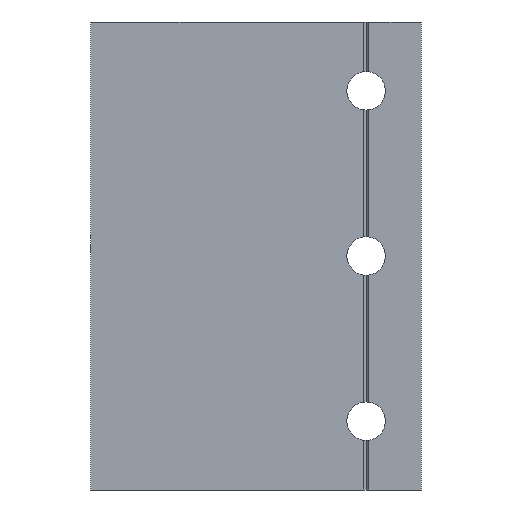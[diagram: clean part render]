
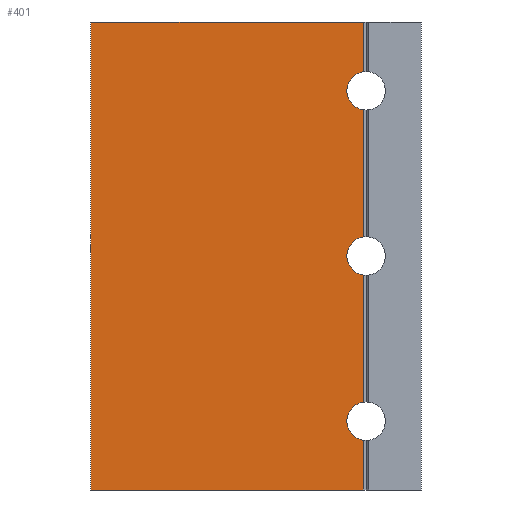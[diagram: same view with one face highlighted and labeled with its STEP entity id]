
A CAD part, front view. The second image highlights one B-rep face of the part: STEP entity #401.
In plain terms, the highlighted planar face has unit normal (0, -1, 0).
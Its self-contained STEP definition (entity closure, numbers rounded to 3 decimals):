
#3 = CARTESIAN_POINT ( 'NONE',  ( 49.5, 0., -42.5 ) ) ;
#17 = EDGE_CURVE ( 'NONE', #1922, #23, #1147, .T. ) ;
#23 = VERTEX_POINT ( 'NONE', #1296 ) ;
#30 = CARTESIAN_POINT ( 'NONE',  ( 50., 0., 0. ) ) ;
#39 = CARTESIAN_POINT ( 'NONE',  ( 49.5, 0., 42.5 ) ) ;
#51 = AXIS2_PLACEMENT_3D ( 'NONE', #30, #990, #982 ) ;
#72 = FACE_OUTER_BOUND ( 'NONE', #902, .T. ) ;
#143 = CARTESIAN_POINT ( 'NONE',  ( 50., 0., -30. ) ) ;
#197 = DIRECTION ( 'NONE',  ( 0., 0., 1. ) ) ;
#218 = VECTOR ( 'NONE', #1090, 1000. ) ;
#226 = DIRECTION ( 'NONE',  ( 0., 0., 1. ) ) ;
#238 = CARTESIAN_POINT ( 'NONE',  ( 0., 0., 42.5 ) ) ;
#258 = PLANE ( 'NONE',  #1081 ) ;
#264 = ORIENTED_EDGE ( 'NONE', *, *, #1544, .T. ) ;
#288 = ORIENTED_EDGE ( 'NONE', *, *, #17, .F. ) ;
#400 = CARTESIAN_POINT ( 'NONE',  ( 0., 0., 42.5 ) ) ;
#401 = ADVANCED_FACE ( 'NONE', ( #72 ), #258, .F. ) ;
#452 = EDGE_CURVE ( 'NONE', #1675, #907, #661, .T. ) ;
#456 = CARTESIAN_POINT ( 'NONE',  ( 49.5, 0., -26.536 ) ) ;
#539 = ORIENTED_EDGE ( 'NONE', *, *, #452, .T. ) ;
#545 = AXIS2_PLACEMENT_3D ( 'NONE', #143, #1616, #1753 ) ;
#576 = LINE ( 'NONE', #1983, #1921 ) ;
#652 = VECTOR ( 'NONE', #777, 1000. ) ;
#661 = CIRCLE ( 'NONE', #51, 3.5 ) ;
#694 = LINE ( 'NONE', #238, #652 ) ;
#746 = CARTESIAN_POINT ( 'NONE',  ( 49.5, 0., -42.5 ) ) ;
#762 = CARTESIAN_POINT ( 'NONE',  ( 49.5, 0., 3.464 ) ) ;
#771 = ORIENTED_EDGE ( 'NONE', *, *, #1706, .T. ) ;
#772 = EDGE_CURVE ( 'NONE', #1431, #830, #694, .T. ) ;
#777 = DIRECTION ( 'NONE',  ( 1., 0., 0. ) ) ;
#781 = VECTOR ( 'NONE', #197, 1000. ) ;
#819 = ORIENTED_EDGE ( 'NONE', *, *, #1788, .T. ) ;
#829 = CARTESIAN_POINT ( 'NONE',  ( 0., 0., 42.5 ) ) ;
#830 = VERTEX_POINT ( 'NONE', #39 ) ;
#873 = VECTOR ( 'NONE', #1359, 1000. ) ;
#902 = EDGE_LOOP ( 'NONE', ( #264, #539, #1651, #288, #771, #1246, #1704, #819, #1299, #1763 ) ) ;
#907 = VERTEX_POINT ( 'NONE', #762 ) ;
#968 = VERTEX_POINT ( 'NONE', #2216 ) ;
#982 = DIRECTION ( 'NONE',  ( 0., 0., 1. ) ) ;
#990 = DIRECTION ( 'NONE',  ( 0., 1., 0. ) ) ;
#1042 = VECTOR ( 'NONE', #2151, 1000. ) ;
#1047 = CARTESIAN_POINT ( 'NONE',  ( 50., 0., 30. ) ) ;
#1081 = AXIS2_PLACEMENT_3D ( 'NONE', #400, #1136, #226 ) ;
#1090 = DIRECTION ( 'NONE',  ( 0., 0., 1. ) ) ;
#1136 = DIRECTION ( 'NONE',  ( 0., 1., 0. ) ) ;
#1147 = CIRCLE ( 'NONE', #1591, 3.5 ) ;
#1164 = DIRECTION ( 'NONE',  ( 0., -1., 0. ) ) ;
#1181 = CARTESIAN_POINT ( 'NONE',  ( 49.5, 0., -42.5 ) ) ;
#1246 = ORIENTED_EDGE ( 'NONE', *, *, #772, .F. ) ;
#1288 = VERTEX_POINT ( 'NONE', #456 ) ;
#1296 = CARTESIAN_POINT ( 'NONE',  ( 49.5, 0., 26.536 ) ) ;
#1299 = ORIENTED_EDGE ( 'NONE', *, *, #1321, .T. ) ;
#1321 = EDGE_CURVE ( 'NONE', #968, #1664, #1582, .T. ) ;
#1359 = DIRECTION ( 'NONE',  ( 0., 0., 1. ) ) ;
#1382 = VERTEX_POINT ( 'NONE', #1526 ) ;
#1402 = LINE ( 'NONE', #1406, #2261 ) ;
#1406 = CARTESIAN_POINT ( 'NONE',  ( 0., 0., -42.5 ) ) ;
#1431 = VERTEX_POINT ( 'NONE', #829 ) ;
#1448 = DIRECTION ( 'NONE',  ( 0., 0., -1. ) ) ;
#1500 = LINE ( 'NONE', #2082, #1042 ) ;
#1526 = CARTESIAN_POINT ( 'NONE',  ( 0., 0., -42.5 ) ) ;
#1536 = EDGE_CURVE ( 'NONE', #1288, #1664, #2179, .T. ) ;
#1544 = EDGE_CURVE ( 'NONE', #1288, #1675, #1725, .T. ) ;
#1582 = LINE ( 'NONE', #746, #218 ) ;
#1591 = AXIS2_PLACEMENT_3D ( 'NONE', #1047, #1164, #1448 ) ;
#1600 = DIRECTION ( 'NONE',  ( 1., 0., 0. ) ) ;
#1616 = DIRECTION ( 'NONE',  ( 0., -1., 0. ) ) ;
#1626 = CARTESIAN_POINT ( 'NONE',  ( 49.5, 0., -33.464 ) ) ;
#1651 = ORIENTED_EDGE ( 'NONE', *, *, #2130, .T. ) ;
#1664 = VERTEX_POINT ( 'NONE', #1626 ) ;
#1675 = VERTEX_POINT ( 'NONE', #2272 ) ;
#1704 = ORIENTED_EDGE ( 'NONE', *, *, #1747, .T. ) ;
#1706 = EDGE_CURVE ( 'NONE', #1922, #830, #1500, .T. ) ;
#1725 = LINE ( 'NONE', #3, #781 ) ;
#1747 = EDGE_CURVE ( 'NONE', #1431, #1382, #576, .T. ) ;
#1753 = DIRECTION ( 'NONE',  ( 0., 0., -1. ) ) ;
#1763 = ORIENTED_EDGE ( 'NONE', *, *, #1536, .F. ) ;
#1788 = EDGE_CURVE ( 'NONE', #1382, #968, #1402, .T. ) ;
#1916 = DIRECTION ( 'NONE',  ( 0., 0., -1. ) ) ;
#1921 = VECTOR ( 'NONE', #1916, 1000. ) ;
#1922 = VERTEX_POINT ( 'NONE', #2026 ) ;
#1983 = CARTESIAN_POINT ( 'NONE',  ( 0., 0., 42.5 ) ) ;
#2026 = CARTESIAN_POINT ( 'NONE',  ( 49.5, 0., 33.464 ) ) ;
#2082 = CARTESIAN_POINT ( 'NONE',  ( 49.5, 0., -42.5 ) ) ;
#2130 = EDGE_CURVE ( 'NONE', #907, #23, #2260, .T. ) ;
#2151 = DIRECTION ( 'NONE',  ( 0., 0., 1. ) ) ;
#2179 = CIRCLE ( 'NONE', #545, 3.5 ) ;
#2216 = CARTESIAN_POINT ( 'NONE',  ( 49.5, 0., -42.5 ) ) ;
#2260 = LINE ( 'NONE', #1181, #873 ) ;
#2261 = VECTOR ( 'NONE', #1600, 1000. ) ;
#2272 = CARTESIAN_POINT ( 'NONE',  ( 49.5, 0., -3.464 ) ) ;
